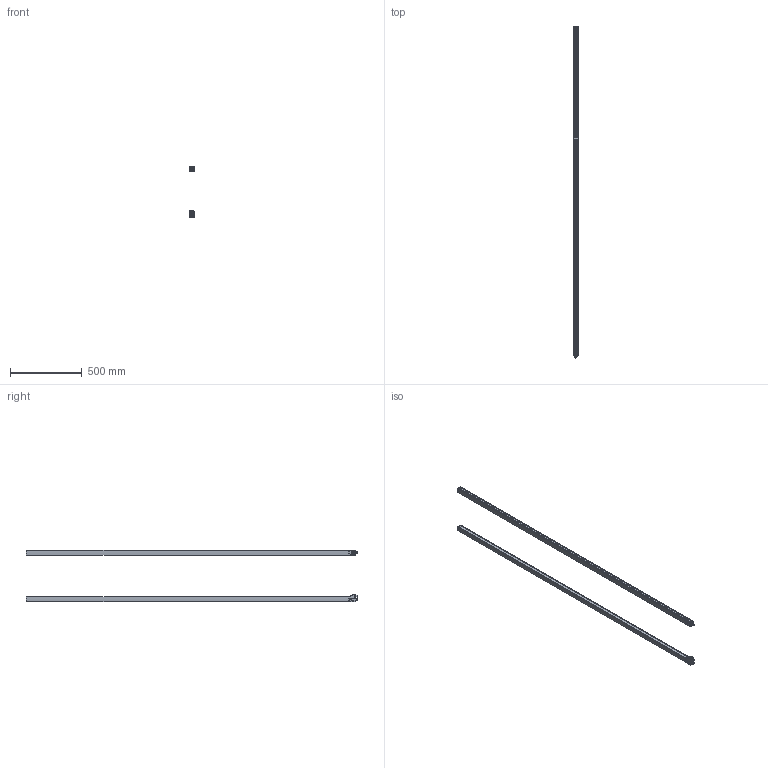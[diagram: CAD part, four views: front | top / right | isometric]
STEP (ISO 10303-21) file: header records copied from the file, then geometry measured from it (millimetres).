
FILE_DESCRIPTION(/* description */ (''),/* implementation_level */ '2;1');
FILE_NAME(/* name */ '3D_CML_700_2240_A.stp',/* time_stamp */ '2013-03-08T12:02:55+01:00',/* author */ (''),/* organization */ (''),/* preprocessor_version */ 'ST-DEVELOPER v11',/* originating_system */ 'SIEMENS UGS NX 6.0',/* authorisation */ '');
FILE_SCHEMA (('AUTOMOTIVE_DESIGN { 1 0 10303 214 1 1 1 1 }'));
Length unit declared in the file: millimetre
Products named in the file (10): M12-X_A; 002491_00.0; 001890_B; 002490_00.0; 002486_00.0; 002485_00.0; 002502_00.0_MODEL; 002492_00.1; 002484_00.1_MODEL; 002489_20.0
Assembly tree (10 placements, depth 4):
  002489_20.0
    002484_00.1_MODEL
      002485_00.0
      002486_00.0
      002490_00.0
      001890_B
    002492_00.1
      002485_00.0
      002491_00.0
      002502_00.0_MODEL
        M12-X_A
Bounding box: 29.38 x 2315.3 x 361.28 mm (x, y, z)
Volume: 4022004.6 mm3; surface area: 728490.5 mm2
Topology: 9 solids, 16 shells, 3444 faces, 9278 edges, 5905 vertices
Faces by surface type: plane 1719, cylinder 765, bspline 368, cone 197, torus 148, revolution 121, extrusion 81, sphere 45
Full cylindrical faces by diameter (mm): 0.4 x1, 0.75 x1, 0.85 x1, 1 x11, 1.25 x7, 1.4 x1, 2 x4, 2.5 x1, 2.6 x13, 3.2 x4, 3.3 x1, 3.5 x4, 4 x7, 4.2 x1, 6 x2, 6.7 x4, 7 x5, 8 x1, 8.6 x2, 9.3 x2, 10 x1, 10.11 x1, 12 x2, 13.98 x1, 15.6 x1, 18 x2
Entity records: 158380 total; most frequent: CARTESIAN_POINT 75242, ORIENTED_EDGE 17632, DIRECTION 15738, EDGE_CURVE 8816, VERTEX_POINT 5717, AXIS2_PLACEMENT_3D 5309, VECTOR 4999, LINE 4918
